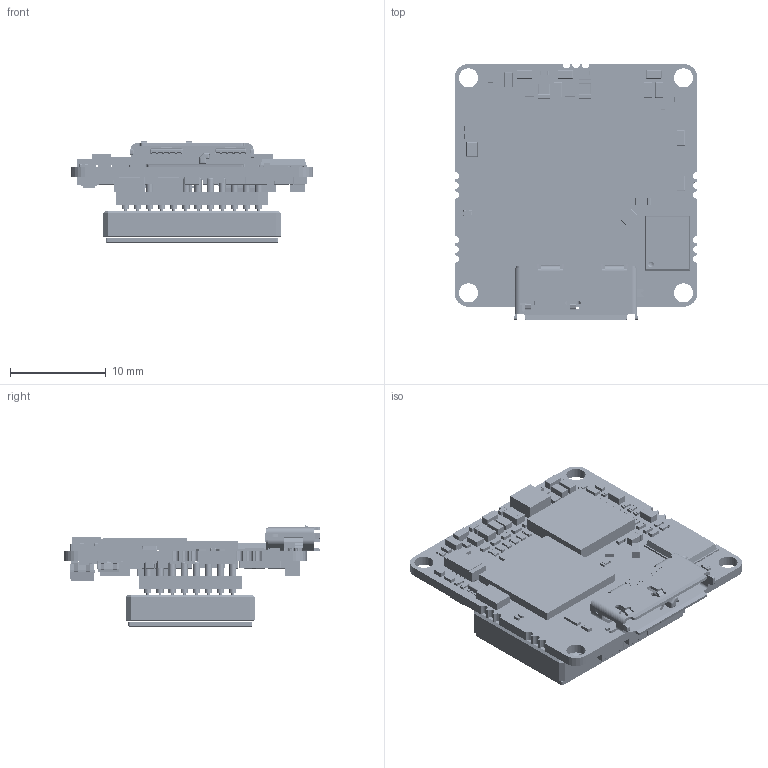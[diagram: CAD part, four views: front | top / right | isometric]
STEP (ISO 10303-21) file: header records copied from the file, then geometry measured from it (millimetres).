
FILE_DESCRIPTION(('Open CASCADE Model'),'2;1');
FILE_NAME('Open CASCADE Shape Model','2015-04-07T13:15:13',('Author'),( 'Open CASCADE'),'Open CASCADE STEP processor 6.2','Open CASCADE 6.2' ,'Unknown');
FILE_SCHEMA(('AUTOMOTIVE_DESIGN { 1 0 10303 214 1 1 1 1 }'));
Length unit declared in the file: millimetre
Products named in the file (276): PCB; Board; C131; cap0402; C130; C129; ChipCap(0603); C121; J1; GSB343133HR-revB; U10; 602636032; Extruded; R46; ChipRes(0402); R45; C128; ChipCap(0402); C127; C126; C125; C124; C123; C122; F1; ChipRes(0603); C120; C119; C118; L15; 0402_L; L14; L13; R44; R43; D4; 516392464; C102; C96; T2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
Assembly tree (456 placements, depth 4):
  PCB
    Board
    C131
      cap0402
    C130
      cap0402
    C129
      ChipCap(0603)
    C121
      ChipCap(0603)
    J1
      GSB343133HR-revB
    U10
      602636032
        Extruded
    R46
      ChipRes(0402)
    R45
      ChipRes(0402)
    C128
      ChipCap(0402)
    C127
      ChipCap(0402)
    C126
      ChipCap(0402)
    C125
      ChipCap(0402)
    C124
      ChipCap(0402)
    C123
      ChipCap(0603)
    C122
      ChipCap(0603)
    F1
      ChipRes(0603)
    C120
      ChipCap(0402)
    C119
      ChipCap(0603)
    C118
      ChipCap(0603)
    L15
      0402_L
    L14
      0402_L
    L13
      0402_L
    R44
      ChipRes(0402)
    R43
      ChipRes(0402)
    D4
      516392464
        Extruded
    C102
      ChipCap(0603)
    C96
      ChipCap(0402)
    T2
      602634624
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Bounding box: 25.43 x 26.81 x 10.64 mm (x, y, z)
Volume: 1932.9 mm3; surface area: 7037.8 mm2
Topology: 443 solids, 2151 shells, 10153 faces, 28866 edges, 20989 vertices
Faces by surface type: plane 6781, cylinder 2113, sphere 564, bspline 400, cone 196, torus 99
Full cylindrical faces by diameter (mm): 0.3 x95, 0.5 x95, 0.76 x190, 2 x4
Entity records: 376279 total; most frequent: CARTESIAN_POINT 110241, DIRECTION 36802, LINE 22787, VECTOR 22787, ORIENTED_EDGE 21306, PCURVE 21306, DEFINITIONAL_REPRESENTATION 21306, EDGE_CURVE 15166
